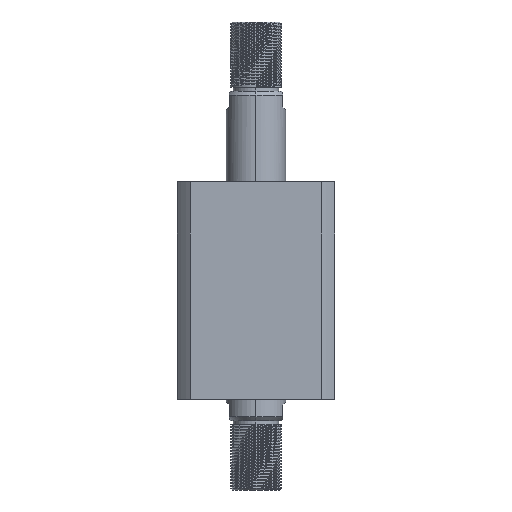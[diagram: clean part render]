
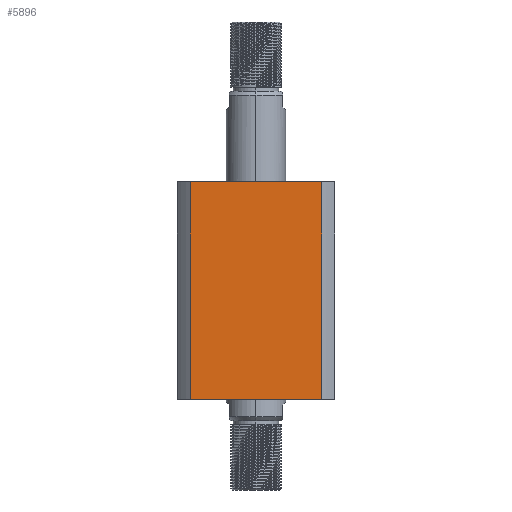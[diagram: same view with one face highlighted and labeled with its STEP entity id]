
A CAD part, left-side view. The second image highlights one B-rep face of the part: STEP entity #5896.
In plain terms, the highlighted planar face has unit normal (-1, 0, 0).
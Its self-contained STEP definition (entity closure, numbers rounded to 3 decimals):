
#91 = ORIENTED_EDGE ( 'NONE', *, *, #10818, .T. ) ;
#311 = LINE ( 'NONE', #4617, #753 ) ;
#753 = VECTOR ( 'NONE', #11268, 1000. ) ;
#1228 = DIRECTION ( 'NONE',  ( 1., 0., 0. ) ) ;
#1627 = ORIENTED_EDGE ( 'NONE', *, *, #5877, .T. ) ;
#2195 = FACE_OUTER_BOUND ( 'NONE', #5989, .T. ) ;
#2425 = VERTEX_POINT ( 'NONE', #9467 ) ;
#2829 = CARTESIAN_POINT ( 'NONE',  ( -40., -33.226, 55. ) ) ;
#2990 = CARTESIAN_POINT ( 'NONE',  ( -40., 33.226, 55. ) ) ;
#4617 = CARTESIAN_POINT ( 'NONE',  ( -40., 33.226, 55. ) ) ;
#4956 = LINE ( 'NONE', #7702, #5370 ) ;
#5167 = PLANE ( 'NONE',  #12094 ) ;
#5335 = VERTEX_POINT ( 'NONE', #10207 ) ;
#5370 = VECTOR ( 'NONE', #12050, 1000. ) ;
#5877 = EDGE_CURVE ( 'NONE', #15926, #2425, #4956, .T. ) ;
#5896 = ADVANCED_FACE ( 'NONE', ( #2195 ), #5167, .F. ) ;
#5989 = EDGE_LOOP ( 'NONE', ( #91, #11920, #15239, #1627 ) ) ;
#6174 = VERTEX_POINT ( 'NONE', #2829 ) ;
#6472 = LINE ( 'NONE', #12952, #9220 ) ;
#7630 = CARTESIAN_POINT ( 'NONE',  ( -40., -33.226, 55. ) ) ;
#7702 = CARTESIAN_POINT ( 'NONE',  ( -40., 33.226, 55. ) ) ;
#7937 = CARTESIAN_POINT ( 'NONE',  ( -40., 33.226, 55. ) ) ;
#9220 = VECTOR ( 'NONE', #14284, 1000. ) ;
#9467 = CARTESIAN_POINT ( 'NONE',  ( -40., 33.226, -55. ) ) ;
#9955 = EDGE_CURVE ( 'NONE', #15926, #6174, #311, .T. ) ;
#10207 = CARTESIAN_POINT ( 'NONE',  ( -40., -33.226, -55. ) ) ;
#10818 = EDGE_CURVE ( 'NONE', #2425, #5335, #6472, .T. ) ;
#11268 = DIRECTION ( 'NONE',  ( 0., -1., 0. ) ) ;
#11920 = ORIENTED_EDGE ( 'NONE', *, *, #15654, .F. ) ;
#12050 = DIRECTION ( 'NONE',  ( 0., 0., -1. ) ) ;
#12094 = AXIS2_PLACEMENT_3D ( 'NONE', #7937, #1228, #14698 ) ;
#12814 = VECTOR ( 'NONE', #16005, 1000. ) ;
#12952 = CARTESIAN_POINT ( 'NONE',  ( -40., 33.226, -55. ) ) ;
#14284 = DIRECTION ( 'NONE',  ( 0., -1., 0. ) ) ;
#14698 = DIRECTION ( 'NONE',  ( 0., 1., 0. ) ) ;
#15239 = ORIENTED_EDGE ( 'NONE', *, *, #9955, .F. ) ;
#15654 = EDGE_CURVE ( 'NONE', #6174, #5335, #16444, .T. ) ;
#15926 = VERTEX_POINT ( 'NONE', #2990 ) ;
#16005 = DIRECTION ( 'NONE',  ( 0., 0., -1. ) ) ;
#16444 = LINE ( 'NONE', #7630, #12814 ) ;
